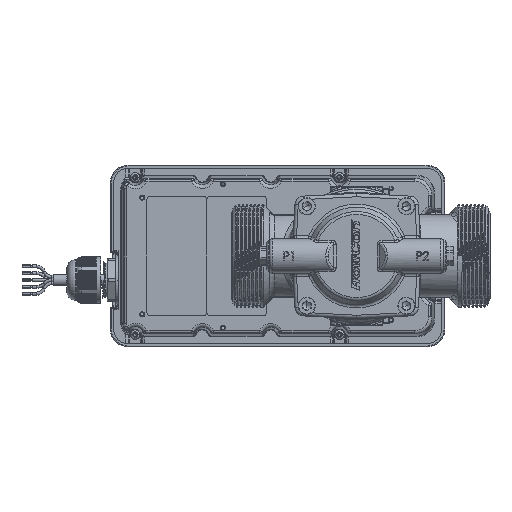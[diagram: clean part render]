
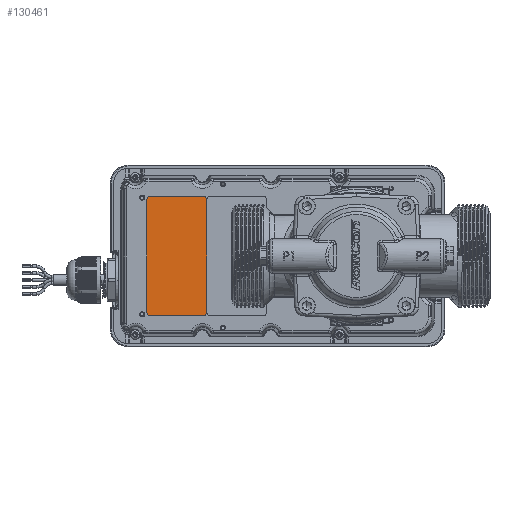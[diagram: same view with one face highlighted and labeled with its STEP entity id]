
A CAD part, front view. The second image highlights one B-rep face of the part: STEP entity #130461.
In plain terms, the highlighted planar face has unit normal (0, -1, 0).
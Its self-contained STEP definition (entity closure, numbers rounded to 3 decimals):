
#827 = ORIENTED_EDGE ( 'NONE', *, *, #111391, .T. ) ;
#4410 = CIRCLE ( 'NONE', #42209, 2.286 ) ;
#4741 = CIRCLE ( 'NONE', #111349, 2.286 ) ;
#4801 = DIRECTION ( 'NONE',  ( -1., 0., 0. ) ) ;
#5398 = CARTESIAN_POINT ( 'NONE',  ( -122.237, 155.298, -32.639 ) ) ;
#11373 = DIRECTION ( 'NONE',  ( 0., 0., 1. ) ) ;
#11424 = VERTEX_POINT ( 'NONE', #88105 ) ;
#12750 = CARTESIAN_POINT ( 'NONE',  ( -119.951, 155.298, 32.639 ) ) ;
#14510 = CARTESIAN_POINT ( 'NONE',  ( -119.951, 155.298, 34.925 ) ) ;
#18982 = LINE ( 'NONE', #126730, #42547 ) ;
#19381 = AXIS2_PLACEMENT_3D ( 'NONE', #12750, #96872, #11373 ) ;
#20891 = CARTESIAN_POINT ( 'NONE',  ( -87.312, 155.298, -32.639 ) ) ;
#26850 = DIRECTION ( 'NONE',  ( 0., -1., 0. ) ) ;
#31507 = DIRECTION ( 'NONE',  ( 0., 0., 1. ) ) ;
#35220 = DIRECTION ( 'NONE',  ( 0., -1., 0. ) ) ;
#36391 = CARTESIAN_POINT ( 'NONE',  ( -122.237, 155.298, 32.639 ) ) ;
#41578 = EDGE_CURVE ( 'NONE', #93822, #120893, #53160, .T. ) ;
#42209 = AXIS2_PLACEMENT_3D ( 'NONE', #81455, #135011, #101656 ) ;
#42547 = VECTOR ( 'NONE', #31507, 1000. ) ;
#42743 = DIRECTION ( 'NONE',  ( 1., 0., 0. ) ) ;
#43027 = EDGE_CURVE ( 'NONE', #118612, #52764, #45460, .T. ) ;
#43656 = EDGE_CURVE ( 'NONE', #117710, #118612, #79330, .T. ) ;
#45460 = LINE ( 'NONE', #36391, #137026 ) ;
#45649 = PLANE ( 'NONE',  #49332 ) ;
#45676 = CARTESIAN_POINT ( 'NONE',  ( -89.599, 155.298, 32.639 ) ) ;
#47133 = VERTEX_POINT ( 'NONE', #20891 ) ;
#47152 = CARTESIAN_POINT ( 'NONE',  ( -89.599, 155.298, -34.925 ) ) ;
#49332 = AXIS2_PLACEMENT_3D ( 'NONE', #87988, #35220, #109581 ) ;
#52764 = VERTEX_POINT ( 'NONE', #5398 ) ;
#53160 = LINE ( 'NONE', #92743, #130874 ) ;
#54437 = CIRCLE ( 'NONE', #103164, 2.286 ) ;
#56110 = EDGE_LOOP ( 'NONE', ( #128879, #137181, #91357, #124303, #78134, #78594, #65587, #827 ) ) ;
#56856 = VECTOR ( 'NONE', #4801, 1000. ) ;
#57484 = DIRECTION ( 'NONE',  ( 1., 0., 0. ) ) ;
#58261 = CARTESIAN_POINT ( 'NONE',  ( -89.599, 155.298, 34.925 ) ) ;
#59867 = CARTESIAN_POINT ( 'NONE',  ( -119.951, 155.298, -32.639 ) ) ;
#60358 = CARTESIAN_POINT ( 'NONE',  ( -119.951, 155.298, -34.925 ) ) ;
#65587 = ORIENTED_EDGE ( 'NONE', *, *, #85689, .T. ) ;
#78134 = ORIENTED_EDGE ( 'NONE', *, *, #41578, .T. ) ;
#78594 = ORIENTED_EDGE ( 'NONE', *, *, #125287, .T. ) ;
#79330 = CIRCLE ( 'NONE', #19381, 2.286 ) ;
#81455 = CARTESIAN_POINT ( 'NONE',  ( -89.599, 155.298, -32.639 ) ) ;
#85689 = EDGE_CURVE ( 'NONE', #47133, #11424, #18982, .T. ) ;
#87988 = CARTESIAN_POINT ( 'NONE',  ( -104.775, 155.298, 0. ) ) ;
#88105 = CARTESIAN_POINT ( 'NONE',  ( -87.312, 155.298, 32.639 ) ) ;
#91357 = ORIENTED_EDGE ( 'NONE', *, *, #43027, .T. ) ;
#92743 = CARTESIAN_POINT ( 'NONE',  ( -119.951, 155.298, -34.925 ) ) ;
#93822 = VERTEX_POINT ( 'NONE', #60358 ) ;
#96766 = EDGE_CURVE ( 'NONE', #52764, #93822, #4741, .T. ) ;
#96872 = DIRECTION ( 'NONE',  ( 0., -1., 0. ) ) ;
#97220 = CARTESIAN_POINT ( 'NONE',  ( -122.237, 155.298, 32.639 ) ) ;
#98421 = FACE_OUTER_BOUND ( 'NONE', #56110, .T. ) ;
#100102 = CARTESIAN_POINT ( 'NONE',  ( -89.599, 155.298, 34.925 ) ) ;
#101656 = DIRECTION ( 'NONE',  ( 0., 0., -1. ) ) ;
#103164 = AXIS2_PLACEMENT_3D ( 'NONE', #45676, #26850, #57484 ) ;
#105413 = EDGE_CURVE ( 'NONE', #134262, #117710, #110577, .T. ) ;
#109581 = DIRECTION ( 'NONE',  ( 0., 0., 1. ) ) ;
#110577 = LINE ( 'NONE', #100102, #56856 ) ;
#111349 = AXIS2_PLACEMENT_3D ( 'NONE', #59867, #134876, #132137 ) ;
#111391 = EDGE_CURVE ( 'NONE', #11424, #134262, #54437, .T. ) ;
#117710 = VERTEX_POINT ( 'NONE', #14510 ) ;
#118612 = VERTEX_POINT ( 'NONE', #97220 ) ;
#120893 = VERTEX_POINT ( 'NONE', #47152 ) ;
#124303 = ORIENTED_EDGE ( 'NONE', *, *, #96766, .T. ) ;
#125287 = EDGE_CURVE ( 'NONE', #120893, #47133, #4410, .T. ) ;
#126730 = CARTESIAN_POINT ( 'NONE',  ( -87.312, 155.298, -32.639 ) ) ;
#128879 = ORIENTED_EDGE ( 'NONE', *, *, #105413, .T. ) ;
#130461 = ADVANCED_FACE ( 'NONE', ( #98421 ), #45649, .T. ) ;
#130874 = VECTOR ( 'NONE', #42743, 1000. ) ;
#132137 = DIRECTION ( 'NONE',  ( -1., 0., 0. ) ) ;
#132260 = DIRECTION ( 'NONE',  ( 0., 0., -1. ) ) ;
#134262 = VERTEX_POINT ( 'NONE', #58261 ) ;
#134876 = DIRECTION ( 'NONE',  ( 0., -1., 0. ) ) ;
#135011 = DIRECTION ( 'NONE',  ( 0., -1., 0. ) ) ;
#137026 = VECTOR ( 'NONE', #132260, 1000. ) ;
#137181 = ORIENTED_EDGE ( 'NONE', *, *, #43656, .T. ) ;
